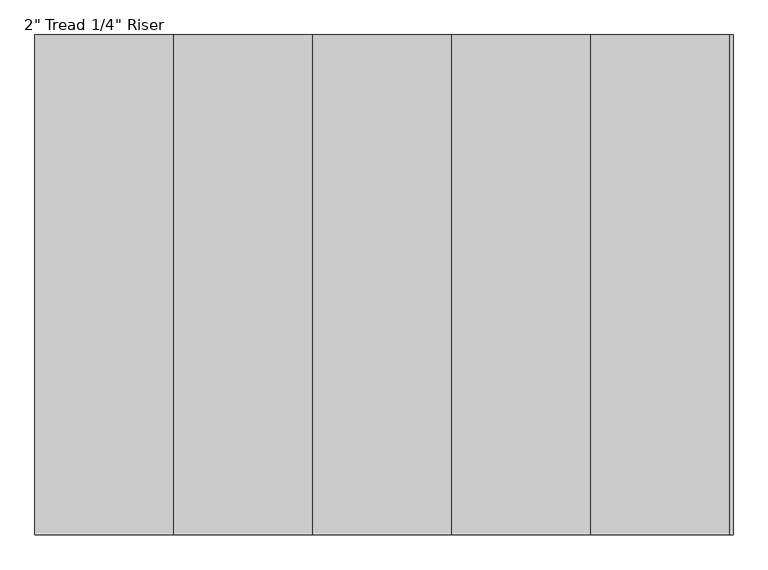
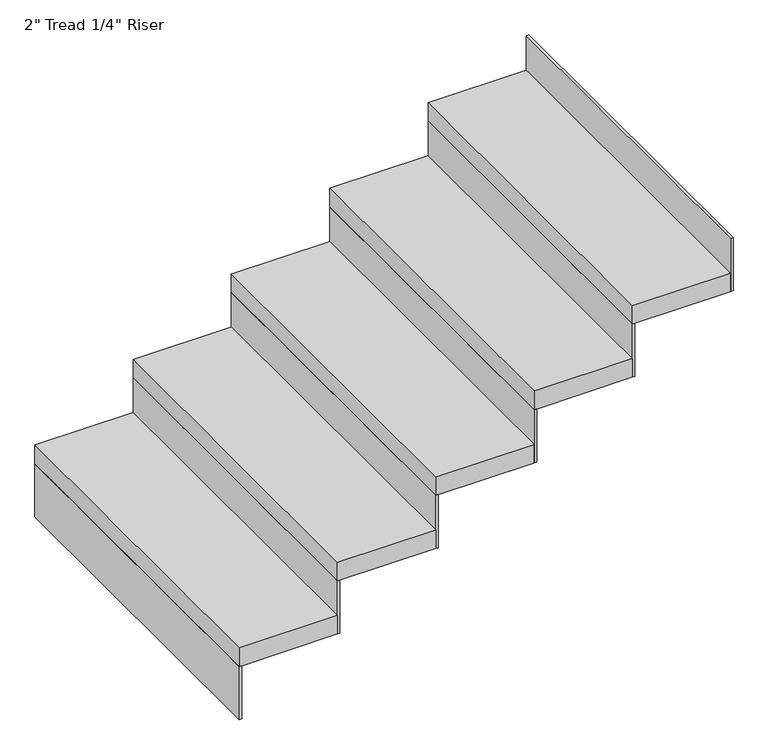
"""IFC4 building model written with IfcOpenShell, lengths in millimetres: stair flight geometry."""

from ifc_helpers import new_model, si_unit, frame, origin, place, context, project, spatial, polyline, outline, extrude, source, transform, mapped, element, save


def stair_flight_c7e7006c(model_context):
    return source(origin(), model_context, "Body", "SweptSolid", [
        extrude(outline(polyline([(51277.8741768, 43330.9361774), (51271.5241768, 43330.9361774), (51271.5241768, 44245.3361774), (51277.8741768, 44245.3361774), (51277.8741768, 43330.9361774)])), frame((0.0, 0.0, 2126.3428571), z_axis=(0.0, 0.0, 1.0), x_axis=(1.0, 0.0, 0.0)), (0.0, 0.0, 1.0), 145.1428571),
        extrude(outline(polyline([(51525.5241768, 44245.3361774), (51525.5241768, 43330.9361774), (51271.5241768, 43330.9361774), (51271.5241768, 44245.3361774), (51525.5241768, 44245.3361774)])), frame((0.0, 0.0, 2271.4857143), z_axis=(0.0, 0.0, 1.0), x_axis=(1.0, 0.0, 0.0)), (0.0, 0.0, 1.0), 50.8),
        extrude(outline(polyline([(51531.8741768, 43330.9361774), (51525.5241768, 43330.9361774), (51525.5241768, 44245.3361774), (51531.8741768, 44245.3361774), (51531.8741768, 43330.9361774)])), frame((0.0, 0.0, 2271.4857143), z_axis=(0.0, 0.0, 1.0), x_axis=(1.0, 0.0, 0.0)), (0.0, 0.0, 1.0), 145.1428571),
        extrude(outline(polyline([(51779.5241768, 44245.3361774), (51779.5241768, 43330.9361774), (51525.5241768, 43330.9361774), (51525.5241768, 44245.3361774), (51779.5241768, 44245.3361774)])), frame((0.0, 0.0, 2416.6285714), z_axis=(0.0, 0.0, 1.0), x_axis=(1.0, 0.0, 0.0)), (0.0, 0.0, 1.0), 50.8),
        extrude(outline(polyline([(51785.8741768, 43330.9361774), (51779.5241768, 43330.9361774), (51779.5241768, 44245.3361774), (51785.8741768, 44245.3361774), (51785.8741768, 43330.9361774)])), frame((0.0, 0.0, 2416.6285714), z_axis=(0.0, 0.0, 1.0), x_axis=(1.0, 0.0, 0.0)), (0.0, 0.0, 1.0), 145.1428571),
        extrude(outline(polyline([(52033.5241768, 44245.3361774), (52033.5241768, 43330.9361774), (51779.5241768, 43330.9361774), (51779.5241768, 44245.3361774), (52033.5241768, 44245.3361774)])), frame((0.0, 0.0, 2561.7714286), z_axis=(0.0, 0.0, 1.0), x_axis=(1.0, 0.0, 0.0)), (0.0, 0.0, 1.0), 50.8),
        extrude(outline(polyline([(52039.8741768, 43330.9361774), (52033.5241768, 43330.9361774), (52033.5241768, 44245.3361774), (52039.8741768, 44245.3361774), (52039.8741768, 43330.9361774)])), frame((0.0, 0.0, 2561.7714286), z_axis=(0.0, 0.0, 1.0), x_axis=(1.0, 0.0, 0.0)), (0.0, 0.0, 1.0), 145.1428571),
        extrude(outline(polyline([(52287.5241768, 44245.3361774), (52287.5241768, 43330.9361774), (52033.5241768, 43330.9361774), (52033.5241768, 44245.3361774), (52287.5241768, 44245.3361774)])), frame((0.0, 0.0, 2706.9142857), z_axis=(0.0, 0.0, 1.0), x_axis=(1.0, 0.0, 0.0)), (0.0, 0.0, 1.0), 50.8),
        extrude(outline(polyline([(52293.8741768, 43330.9361774), (52287.5241768, 43330.9361774), (52287.5241768, 44245.3361774), (52293.8741768, 44245.3361774), (52293.8741768, 43330.9361774)])), frame((0.0, 0.0, 2706.9142857), z_axis=(0.0, 0.0, 1.0), x_axis=(1.0, 0.0, 0.0)), (0.0, 0.0, 1.0), 145.1428571),
        extrude(outline(polyline([(52547.8741768, 43330.9361774), (52541.5241768, 43330.9361774), (52541.5241768, 44245.3361774), (52547.8741768, 44245.3361774), (52547.8741768, 43330.9361774)])), frame((0.0, 0.0, 2852.0571429), z_axis=(0.0, 0.0, 1.0), x_axis=(1.0, 0.0, 0.0)), (0.0, 0.0, 1.0), 145.1428571),
        extrude(outline(polyline([(52541.5241768, 44245.3361774), (52541.5241768, 43330.9361774), (52287.5241768, 43330.9361774), (52287.5241768, 44245.3361774), (52541.5241768, 44245.3361774)])), frame((0.0, 0.0, 2852.0571429), z_axis=(0.0, 0.0, 1.0), x_axis=(1.0, 0.0, 0.0)), (0.0, 0.0, 1.0), 50.8),
    ])


if __name__ == "__main__":
    model = new_model("IFC4")
    model_context = context("Model", 3, world=origin())
    ifc_project = project(units=[si_unit("LENGTHUNIT", "METRE", prefix="MILLI")], contexts=[model_context])
    site = spatial("IfcSite", under=ifc_project)
    building = spatial("IfcBuilding", under=site)
    placement = place(None, origin())
    stair_flight_shape = stair_flight_c7e7006c(model_context)
    element("IfcStairFlight", 1, ObjectType="2\" Tread 1/4\" Riser", at=placement, inside=building, context=model_context, shape_type="MappedRepresentation", body=[
        mapped(stair_flight_shape, transform((0.0, 0.0, 0.0), x_axis=(1.0, 0.0, 0.0), y_axis=(0.0, 1.0, 0.0), z_axis=(0.0, 0.0, 1.0))),
    ])
    save(model, "model.ifc")
